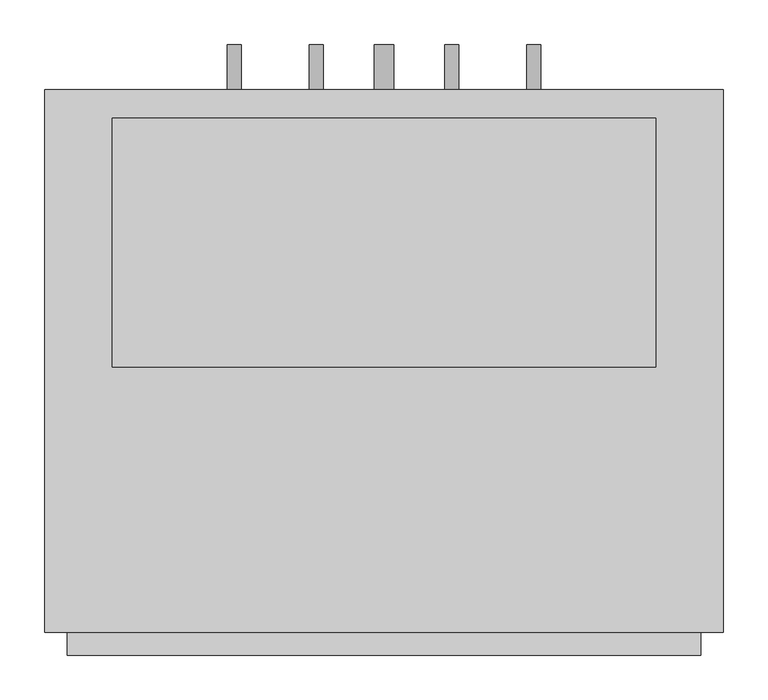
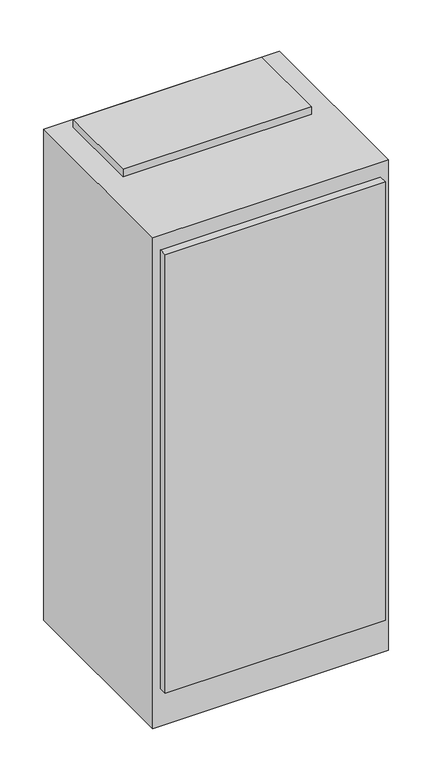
"""IFC4 building model written with IfcOpenShell, lengths in millimetres: proxy geometry, Concealed_Modular_Fan_Coil_Unit_-_42SMA_-_CARRIER_-_4-Pipe_-_NoRisers_2022 : Size 14 - 277v/60Hz/1Ph - 4/1 Coil."""

from ifc_helpers import new_model, si_unit, point, frame, frame_2d, origin, origin_with_axes, place, context, project, spatial, polyline, circle_curve, trimmed, segment, composite_curve, outline, extrude, source, transform, mapped, element, save


def mechanical_equipment_36c7c29a(model_context):
    return source(origin(), model_context, "Body", "SweptSolid", [
        extrude(outline(composite_curve([segment(trimmed(circle_curve(frame_2d((990.6, 701.675)), 7.9375), [point((990.6, 693.7375))], [point((990.6, 709.6125))], False, "CARTESIAN"), True, "CONTINUOUS"), segment(trimmed(circle_curve(frame_2d((990.6, 701.675)), 7.9375), [point((990.6, 709.6125))], [point((990.6, 693.7375))], False, "CARTESIAN"), True, "CONTINUOUS")], self_intersect=False)), frame((0.0, 244.475, 0.0), z_axis=(0.0, 1.0, 0.0), x_axis=(0.0, 0.0, 1.0)), (0.0, 0.0, 1.0), 50.8),
        extrude(outline(composite_curve([segment(trimmed(circle_curve(frame_2d((990.6, 609.6)), 7.9375), [point((990.6, 601.6625))], [point((990.6, 617.5375))], False, "CARTESIAN"), True, "CONTINUOUS"), segment(trimmed(circle_curve(frame_2d((990.6, 609.6)), 7.9375), [point((990.6, 617.5375))], [point((990.6, 601.6625))], False, "CARTESIAN"), True, "CONTINUOUS")], self_intersect=False)), frame((0.0, 244.475, 0.0), z_axis=(0.0, 1.0, 0.0), x_axis=(0.0, 0.0, 1.0)), (0.0, 0.0, 1.0), 50.8),
        extrude(outline(composite_curve([segment(trimmed(circle_curve(frame_2d((990.6, 457.2)), 7.9375), [point((990.6, 449.2625))], [point((990.6, 465.1375))], False, "CARTESIAN"), True, "CONTINUOUS"), segment(trimmed(circle_curve(frame_2d((990.6, 457.2)), 7.9375), [point((990.6, 465.1375))], [point((990.6, 449.2625))], False, "CARTESIAN"), True, "CONTINUOUS")], self_intersect=False)), frame((0.0, 244.475, 0.0), z_axis=(0.0, 1.0, 0.0), x_axis=(0.0, 0.0, 1.0)), (0.0, 0.0, 1.0), 50.8),
        extrude(outline(composite_curve([segment(trimmed(circle_curve(frame_2d((990.6, 365.125)), 7.9375), [point((990.6, 357.1875))], [point((990.6, 373.0625))], False, "CARTESIAN"), True, "CONTINUOUS"), segment(trimmed(circle_curve(frame_2d((990.6, 365.125)), 7.9375), [point((990.6, 373.0625))], [point((990.6, 357.1875))], False, "CARTESIAN"), True, "CONTINUOUS")], self_intersect=False)), frame((0.0, 244.475, 0.0), z_axis=(0.0, 1.0, 0.0), x_axis=(0.0, 0.0, 1.0)), (0.0, 0.0, 1.0), 50.8),
        extrude(outline(composite_curve([segment(trimmed(circle_curve(frame_2d((76.2, 533.4)), 11.1125), [point((76.2, 522.2875))], [point((76.2, 544.5125))], False, "CARTESIAN"), True, "CONTINUOUS"), segment(trimmed(circle_curve(frame_2d((76.2, 533.4)), 11.1125), [point((76.2, 544.5125))], [point((76.2, 522.2875))], False, "CARTESIAN"), True, "CONTINUOUS")], self_intersect=False)), frame((0.0, 244.475, 0.0), z_axis=(0.0, 1.0, 0.0), x_axis=(0.0, 0.0, 1.0)), (0.0, 0.0, 1.0), 50.8),
        extrude(outline(polyline([(838.2, 212.725), (838.2, -66.675), (228.6, -66.675), (228.6, 212.725), (838.2, 212.725)])), frame((0.0, 0.0, 1676.4), z_axis=(0.0, 0.0, 1.0), x_axis=(1.0, 0.0, 0.0)), (0.0, 0.0, 1.0), 25.4),
        extrude(outline(polyline([(889.0, -390.525), (177.8, -390.525), (177.8, -365.125), (889.0, -365.125), (889.0, -390.525)])), frame((0.0, 0.0, 127.0), z_axis=(0.0, 0.0, 1.0), x_axis=(1.0, 0.0, 0.0)), (0.0, 0.0, 1.0), 1498.6),
        extrude(outline(polyline([(914.4, 244.475), (914.4, -365.125), (152.4, -365.125), (152.4, 244.475), (914.4, 244.475)])), origin_with_axes(), (0.0, 0.0, 1.0), 1676.4),
    ])


if __name__ == "__main__":
    model = new_model("IFC4")
    model_context = context("Model", 3, world=origin())
    ifc_project = project(units=[si_unit("LENGTHUNIT", "METRE", prefix="MILLI")], contexts=[model_context])
    site = spatial("IfcSite", under=ifc_project)
    building = spatial("IfcBuilding", under=site)
    placement = place(None, origin())
    mechanical_equipment_shape = mechanical_equipment_36c7c29a(model_context)
    element("IfcBuildingElementProxy", 1, Name="Concealed_Modular_Fan_Coil_Unit_-_42SMA_-_CARRIER_-_4-Pipe_-_NoRisers_2022 : Size 14 - 277v/60Hz/1Ph - 4/1 Coil", ObjectType="Concealed_Modular_Fan_Coil_Unit_-_42SMA_-_CARRIER_-_4-Pipe_-_NoRisers_2022 : Size 14 - 277v/60Hz/1Ph - 4/1 Coil", at=placement, inside=building, context=model_context, shape_type="MappedRepresentation", body=[
        mapped(mechanical_equipment_shape, transform((0.0, 0.0, 0.0), x_axis=(1.0, 0.0, 0.0), y_axis=(0.0, 1.0, 0.0), z_axis=(0.0, 0.0, 1.0))),
    ])
    save(model, "model.ifc")
